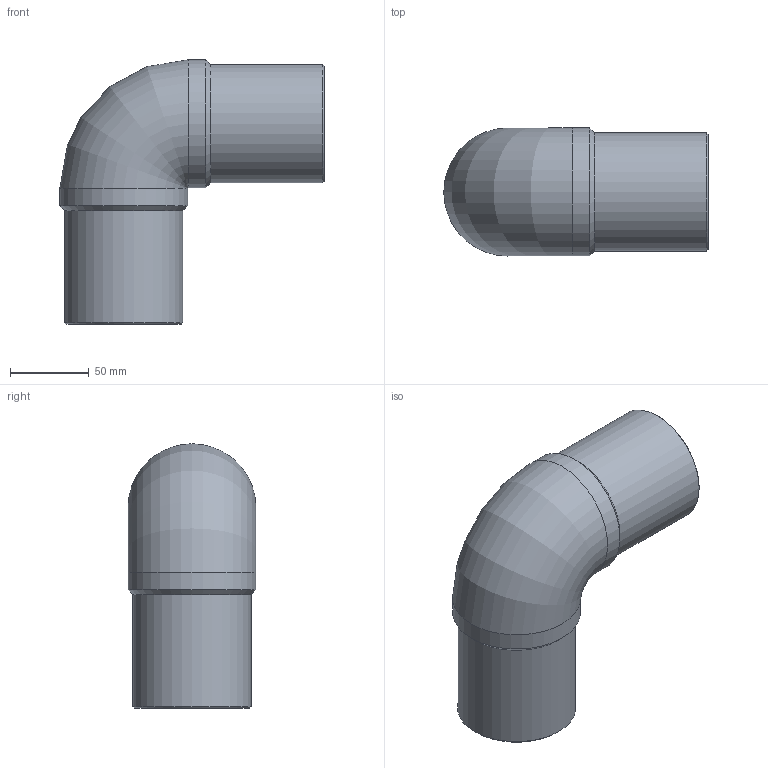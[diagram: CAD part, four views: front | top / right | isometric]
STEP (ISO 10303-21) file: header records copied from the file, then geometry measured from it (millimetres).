
FILE_DESCRIPTION(/* description */ ('Unknown'),/* implementation_level */ '2;1');
FILE_NAME(/* name */ 'G9P075C',/* time_stamp */ '2021-11-15T11:02:01+01:00',/* author */ ('Unknown'),/* organization */ ('Unknown'),/* preprocessor_version */ 'ST-DEVELOPER v16.7',/* originating_system */ 'Solid Edge',/* authorisation */ 'Unknown');
FILE_SCHEMA (('AUTOMOTIVE_DESIGN {1 0 10303 214 3 1 1}'));
Length unit declared in the file: millimetre
Products named in the file (1): G9P075C
Bounding box: 167.5 x 81 x 167.5 mm (x, y, z)
Volume: 414177.3 mm3; surface area: 106395 mm2
Topology: 1 solids, 1 shells, 14 faces, 34 edges, 22 vertices
Faces by surface type: cylinder 6, cone 4, plane 2, torus 2
Full cylindrical faces by diameter (mm): 61.4 x2, 75 x2, 81 x2
Entity records: 368 total; most frequent: CARTESIAN_POINT 68, DIRECTION 60, ORIENTED_EDGE 38, AXIS2_PLACEMENT_3D 30, EDGE_LOOP 27, FACE_BOUND 27, EDGE_CURVE 19, VERTEX_POINT 18
